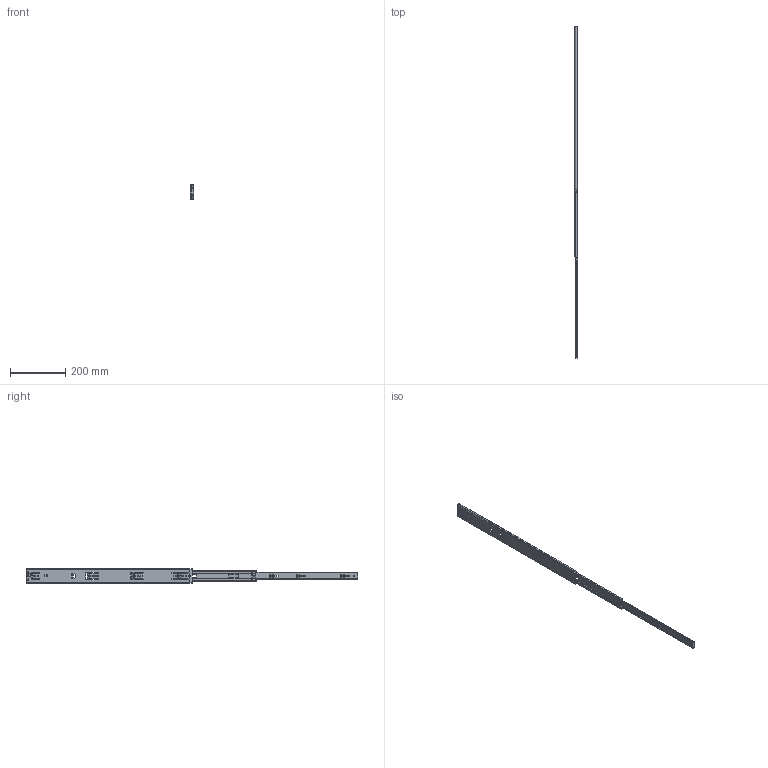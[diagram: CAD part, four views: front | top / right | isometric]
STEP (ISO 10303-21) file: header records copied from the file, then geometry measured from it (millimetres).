
FILE_DESCRIPTION( ( 'Unknown' ), '1' );
FILE_NAME( 'C:/Users/rd30/Desktop/85A01-600-Open.stp', 'Unknown', ( 'Unknown' ), ( 'Unknown' ), 'PSStep 14.0', 'Unknown', ' ' );
FILE_SCHEMA( ( 'AUTOMOTIVE_DESIGN { 1 0 10303 214 1 1 1 1 }' ) );
Length unit declared in the file: millimetre
Products named in the file (8): P10-366-3-1; P10-367-130429; 本體(卡式)20130423-\X2\4FEE6A21571\X0\; Assem1; 85A01P11-02-600; 85A01P21-03-600; 85A01P30-04-B; 85A01P30-04-600
Assembly tree (7 placements, depth 3):
  Assem1
    85A01P11-02-600
    85A01P21-03-600
    85A01P30-04-B
    85A01P30-04-600
    P10-366-3-1
      P10-367-130429
      本體(卡式)20130423-\X2\4FEE6A21571\X0\
Bounding box: 12.61 x 1199 x 55.37 mm (x, y, z)
Volume: 213511.8 mm3; surface area: 194260.2 mm2
Topology: 6 solids, 6 shells, 693 faces, 1988 edges, 1305 vertices
Faces by surface type: plane 334, cylinder 299, cone 32, torus 24, bspline 2, sphere 2
Full cylindrical faces by diameter (mm): 1.4 x1, 3 x1, 3.2 x1, 4.6 x1, 5 x4, 5.1 x1, 5.5 x1, 6.25 x1, 6.4 x3
Entity records: 28821 total; most frequent: CARTESIAN_POINT 4358, DIRECTION 3939, ORIENTED_EDGE 3914, EDGE_CURVE 1957, AXIS2_PLACEMENT_3D 1366, VERTEX_POINT 1293, LINE 1207, VECTOR 1207
